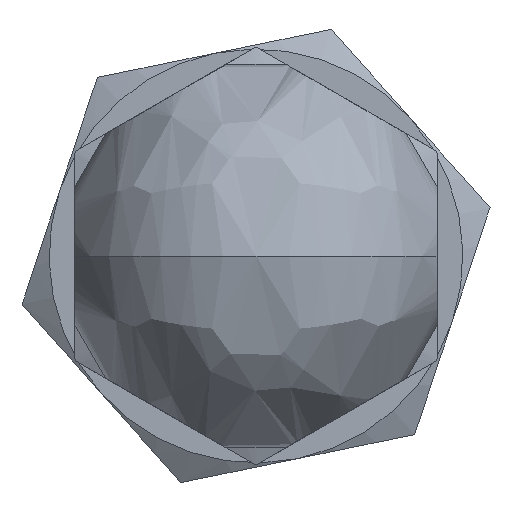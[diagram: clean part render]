
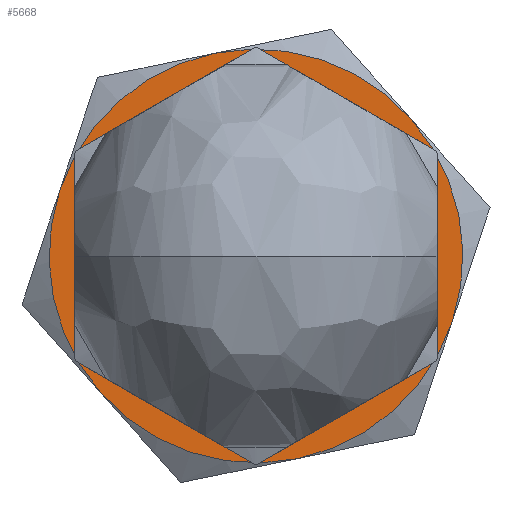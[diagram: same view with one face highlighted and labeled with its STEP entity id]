
A CAD part, front view. The second image highlights one B-rep face of the part: STEP entity #5668.
In plain terms, the highlighted planar face has unit normal (0, -1, 0).
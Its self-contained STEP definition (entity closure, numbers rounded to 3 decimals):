
#74 = DIRECTION ( 'NONE',  ( 0., 1., 0. ) ) ;
#417 = EDGE_CURVE ( 'NONE', #10280, #12776, #6522, .T. ) ;
#521 = AXIS2_PLACEMENT_3D ( 'NONE', #8258, #6613, #19782 ) ;
#609 = CIRCLE ( 'NONE', #1671, 8. ) ;
#1214 = VERTEX_POINT ( 'NONE', #18799 ) ;
#1265 = EDGE_CURVE ( 'NONE', #12776, #10280, #12911, .T. ) ;
#1671 = AXIS2_PLACEMENT_3D ( 'NONE', #15205, #9909, #13541 ) ;
#1753 = DIRECTION ( 'NONE',  ( -0.748, 0., -0.664 ) ) ;
#1847 = DIRECTION ( 'NONE',  ( -0.748, 0., -0.664 ) ) ;
#2104 = CARTESIAN_POINT ( 'NONE',  ( -45.389, -2.953, 16.283 ) ) ;
#2315 = DIRECTION ( 'NONE',  ( 0., 1., 0. ) ) ;
#2999 = CARTESIAN_POINT ( 'NONE',  ( -46.998, -2.953, 24.12 ) ) ;
#3353 = CARTESIAN_POINT ( 'NONE',  ( -51.371, -2.953, 10.971 ) ) ;
#3617 = AXIS2_PLACEMENT_3D ( 'NONE', #15223, #74, #1847 ) ;
#3744 = AXIS2_PLACEMENT_3D ( 'NONE', #2104, #2315, #5310 ) ;
#4340 = CIRCLE ( 'NONE', #16717, 8. ) ;
#4939 = CARTESIAN_POINT ( 'NONE',  ( -39.407, -2.953, 21.595 ) ) ;
#5310 = DIRECTION ( 'NONE',  ( -0.748, 0., -0.664 ) ) ;
#5473 = CIRCLE ( 'NONE', #18541, 8. ) ;
#5631 = VERTEX_POINT ( 'NONE', #2999 ) ;
#5668 = ADVANCED_FACE ( 'NONE', ( #11267, #9617 ), #20043, .T. ) ;
#5772 = CARTESIAN_POINT ( 'NONE',  ( -43.78, -2.953, 8.447 ) ) ;
#6401 = AXIS2_PLACEMENT_3D ( 'NONE', #20091, #10096, #11638 ) ;
#6522 = CIRCLE ( 'NONE', #521, 5. ) ;
#6613 = DIRECTION ( 'NONE',  ( 0., 1., 0. ) ) ;
#6840 = CARTESIAN_POINT ( 'NONE',  ( -49.128, -2.953, 12.963 ) ) ;
#7163 = ORIENTED_EDGE ( 'NONE', *, *, #16140, .F. ) ;
#8258 = CARTESIAN_POINT ( 'NONE',  ( -45.389, -2.953, 16.283 ) ) ;
#8370 = ORIENTED_EDGE ( 'NONE', *, *, #18039, .F. ) ;
#8497 = CARTESIAN_POINT ( 'NONE',  ( -45.389, -2.953, 16.283 ) ) ;
#8725 = EDGE_LOOP ( 'NONE', ( #18553, #14865 ) ) ;
#8762 = AXIS2_PLACEMENT_3D ( 'NONE', #16690, #11468, #1753 ) ;
#9617 = FACE_OUTER_BOUND ( 'NONE', #16601, .T. ) ;
#9869 = DIRECTION ( 'NONE',  ( -0.748, 0., -0.664 ) ) ;
#9909 = DIRECTION ( 'NONE',  ( 0., 1., 0. ) ) ;
#9940 = VERTEX_POINT ( 'NONE', #3353 ) ;
#10096 = DIRECTION ( 'NONE',  ( 0., 1., 0. ) ) ;
#10236 = VERTEX_POINT ( 'NONE', #5772 ) ;
#10280 = VERTEX_POINT ( 'NONE', #18371 ) ;
#10621 = CIRCLE ( 'NONE', #6401, 8. ) ;
#11152 = DIRECTION ( 'NONE',  ( 0., -1., 0. ) ) ;
#11267 = FACE_BOUND ( 'NONE', #8725, .T. ) ;
#11385 = VERTEX_POINT ( 'NONE', #4939 ) ;
#11468 = DIRECTION ( 'NONE',  ( 0., 1., 0. ) ) ;
#11638 = DIRECTION ( 'NONE',  ( 0.748, 0., 0.664 ) ) ;
#12593 = CARTESIAN_POINT ( 'NONE',  ( -37.798, -2.953, 13.758 ) ) ;
#12691 = EDGE_CURVE ( 'NONE', #5631, #11385, #12975, .T. ) ;
#12776 = VERTEX_POINT ( 'NONE', #6840 ) ;
#12911 = CIRCLE ( 'NONE', #3744, 5. ) ;
#12975 = CIRCLE ( 'NONE', #8762, 8. ) ;
#13541 = DIRECTION ( 'NONE',  ( -0.748, 0., -0.664 ) ) ;
#14842 = DIRECTION ( 'NONE',  ( 0., 1., 0. ) ) ;
#14853 = EDGE_CURVE ( 'NONE', #11385, #20845, #10621, .T. ) ;
#14865 = ORIENTED_EDGE ( 'NONE', *, *, #1265, .T. ) ;
#15205 = CARTESIAN_POINT ( 'NONE',  ( -45.389, -2.953, 16.283 ) ) ;
#15223 = CARTESIAN_POINT ( 'NONE',  ( -45.389, -2.953, 16.283 ) ) ;
#15494 = DIRECTION ( 'NONE',  ( -0.748, 0., -0.664 ) ) ;
#15544 = ORIENTED_EDGE ( 'NONE', *, *, #12691, .F. ) ;
#16140 = EDGE_CURVE ( 'NONE', #9940, #1214, #4340, .T. ) ;
#16393 = AXIS2_PLACEMENT_3D ( 'NONE', #21702, #11152, #21814 ) ;
#16601 = EDGE_LOOP ( 'NONE', ( #7163, #8370, #19913, #19565, #15544, #18692 ) ) ;
#16683 = EDGE_CURVE ( 'NONE', #1214, #5631, #19523, .T. ) ;
#16690 = CARTESIAN_POINT ( 'NONE',  ( -45.389, -2.953, 16.283 ) ) ;
#16717 = AXIS2_PLACEMENT_3D ( 'NONE', #18284, #14842, #9869 ) ;
#18039 = EDGE_CURVE ( 'NONE', #10236, #9940, #5473, .T. ) ;
#18284 = CARTESIAN_POINT ( 'NONE',  ( -45.389, -2.953, 16.283 ) ) ;
#18371 = CARTESIAN_POINT ( 'NONE',  ( -41.651, -2.953, 19.603 ) ) ;
#18541 = AXIS2_PLACEMENT_3D ( 'NONE', #8497, #20480, #15494 ) ;
#18553 = ORIENTED_EDGE ( 'NONE', *, *, #417, .T. ) ;
#18692 = ORIENTED_EDGE ( 'NONE', *, *, #16683, .F. ) ;
#18799 = CARTESIAN_POINT ( 'NONE',  ( -52.98, -2.953, 18.808 ) ) ;
#19523 = CIRCLE ( 'NONE', #3617, 8. ) ;
#19565 = ORIENTED_EDGE ( 'NONE', *, *, #14853, .F. ) ;
#19782 = DIRECTION ( 'NONE',  ( -0.748, 0., -0.664 ) ) ;
#19913 = ORIENTED_EDGE ( 'NONE', *, *, #20307, .F. ) ;
#20043 = PLANE ( 'NONE',  #16393 ) ;
#20091 = CARTESIAN_POINT ( 'NONE',  ( -45.389, -2.953, 16.283 ) ) ;
#20307 = EDGE_CURVE ( 'NONE', #20845, #10236, #609, .T. ) ;
#20480 = DIRECTION ( 'NONE',  ( 0., 1., 0. ) ) ;
#20845 = VERTEX_POINT ( 'NONE', #12593 ) ;
#21702 = CARTESIAN_POINT ( 'NONE',  ( -39.256, -2.953, 9.376 ) ) ;
#21814 = DIRECTION ( 'NONE',  ( -0.748, 0., -0.664 ) ) ;
